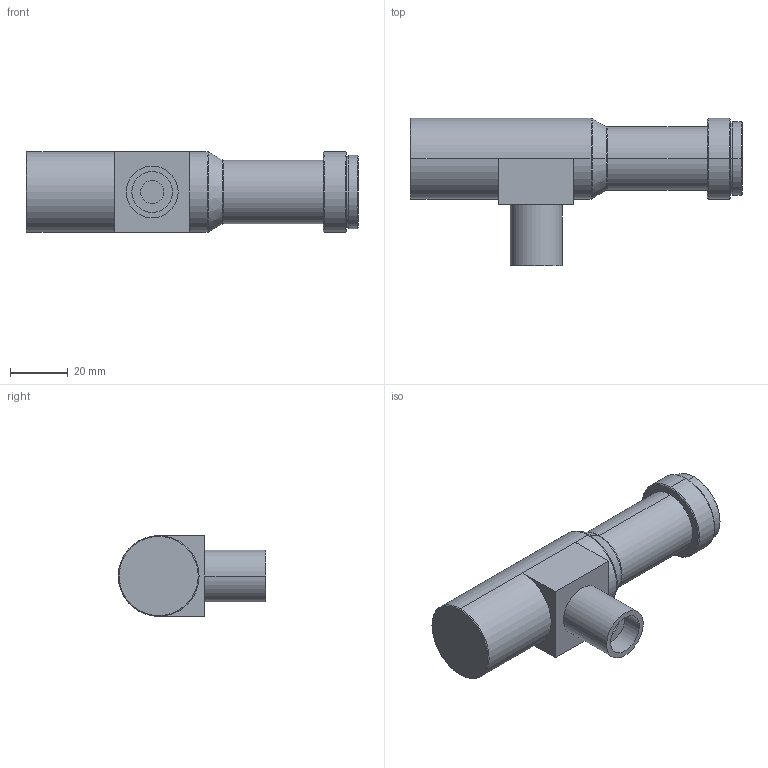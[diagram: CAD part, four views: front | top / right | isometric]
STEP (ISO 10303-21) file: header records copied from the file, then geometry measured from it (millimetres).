
FILE_DESCRIPTION (( 'STEP AP203' ), '1' );
FILE_NAME ('WWH15-63CTV3.STEP', '2021-09-09T07:31:16', ( '' ), ( '' ), 'SwSTEP 2.0', 'SolidWorks 2017', '' );
FILE_SCHEMA (( 'CONFIG_CONTROL_DESIGN' ));
Length unit declared in the file: millimetre
Products named in the file (1): WWH15-63CTV3
Bounding box: 115 x 51.1 x 28 mm (x, y, z)
Volume: 68801.6 mm3; surface area: 13419.9 mm2
Topology: 1 solids, 1 shells, 44 faces, 88 edges, 52 vertices
Faces by surface type: cylinder 17, plane 13, cone 10, torus 4
Entity records: 1219 total; most frequent: DIRECTION 228, CARTESIAN_POINT 185, ORIENTED_EDGE 176, AXIS2_PLACEMENT_3D 95, EDGE_CURVE 88, VERTEX_POINT 52, CIRCLE 50, EDGE_LOOP 50
